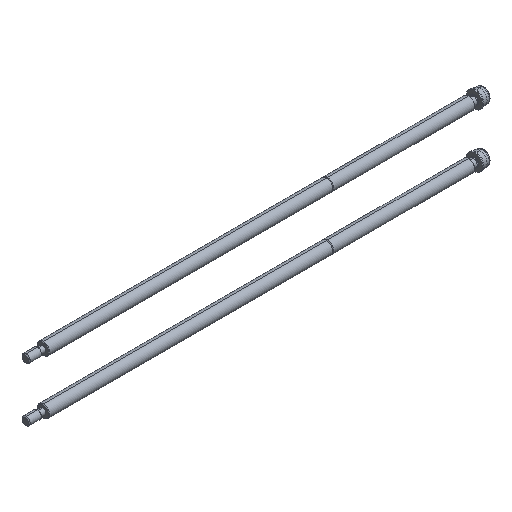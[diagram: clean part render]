
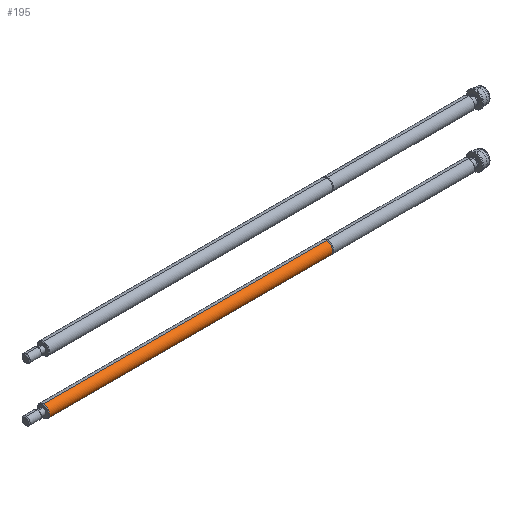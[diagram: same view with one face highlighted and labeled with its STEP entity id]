
A CAD part, isometric view. The second image highlights one B-rep face of the part: STEP entity #195.
In plain terms, the highlighted cylindrical face has radius 2.25 mm (diameter 4.5 mm), a partial arc.
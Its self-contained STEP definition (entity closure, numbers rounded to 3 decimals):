
#195=ADVANCED_FACE('',(#443),#442,.T.);
#442=CYLINDRICAL_SURFACE('',#1141,2.25);
#443=FACE_OUTER_BOUND('',#1142,.T.);
#1138=CARTESIAN_POINT('',(0.,0.,0.));
#1139=DIRECTION('',(1.,0.,0.));
#1140=DIRECTION('',(0.,0.,1.));
#1141=AXIS2_PLACEMENT_3D('',#1138,#1139,#1140);
#1142=EDGE_LOOP('',(#1608,#1609,#1610,#1611));
#1608=ORIENTED_EDGE('',*,*,#1853,.T.);
#1609=ORIENTED_EDGE('',*,*,#1854,.F.);
#1610=ORIENTED_EDGE('',*,*,#1849,.T.);
#1611=ORIENTED_EDGE('',*,*,#1855,.T.);
#1849=EDGE_CURVE('',#2180,#2179,#2199,.T.);
#1853=EDGE_CURVE('',#2206,#2205,#2225,.T.);
#1854=EDGE_CURVE('',#2180,#2205,#2231,.T.);
#1855=EDGE_CURVE('',#2179,#2206,#2237,.T.);
#2179=VERTEX_POINT('',#3002);
#2180=VERTEX_POINT('',#3003);
#2199=CIRCLE('',#3015,2.25);
#2205=VERTEX_POINT('',#3016);
#2206=VERTEX_POINT('',#3017);
#2225=CIRCLE('',#3029,2.25);
#2231=(BOUNDED_CURVE() B_SPLINE_CURVE(1,(#3030,#3031),.UNSPECIFIED.,.F.,.F.) B_SPLINE_CURVE_WITH_KNOTS((2,2),(0.08,0.92),.UNSPECIFIED.) CURVE() GEOMETRIC_REPRESENTATION_ITEM() RATIONAL_B_SPLINE_CURVE((1.,1.)) REPRESENTATION_ITEM('') );
#2237=(BOUNDED_CURVE() B_SPLINE_CURVE(1,(#3032,#3033),.UNSPECIFIED.,.F.,.F.) B_SPLINE_CURVE_WITH_KNOTS((2,2),(0.08,0.92),.UNSPECIFIED.) CURVE() GEOMETRIC_REPRESENTATION_ITEM() RATIONAL_B_SPLINE_CURVE((0.75,0.75)) REPRESENTATION_ITEM('') );
#3002=CARTESIAN_POINT('',(0.2,0.,-2.25));
#3003=CARTESIAN_POINT('',(0.2,0.,2.25));
#3012=CARTESIAN_POINT('',(0.2,0.,0.));
#3013=DIRECTION('',(1.,0.,0.));
#3014=DIRECTION('',(0.,0.,1.));
#3015=AXIS2_PLACEMENT_3D('',#3012,#3013,#3014);
#3016=CARTESIAN_POINT('',(104.8,0.,2.25));
#3017=CARTESIAN_POINT('',(104.8,0.,-2.25));
#3026=CARTESIAN_POINT('',(104.8,0.,0.));
#3027=DIRECTION('',(-1.,0.,0.));
#3028=DIRECTION('',(0.,0.,-1.));
#3029=AXIS2_PLACEMENT_3D('',#3026,#3027,#3028);
#3030=CARTESIAN_POINT('',(0.2,0.,2.25));
#3031=CARTESIAN_POINT('',(104.8,0.,2.25));
#3032=CARTESIAN_POINT('',(0.2,0.,-2.25));
#3033=CARTESIAN_POINT('',(104.8,0.,-2.25));
